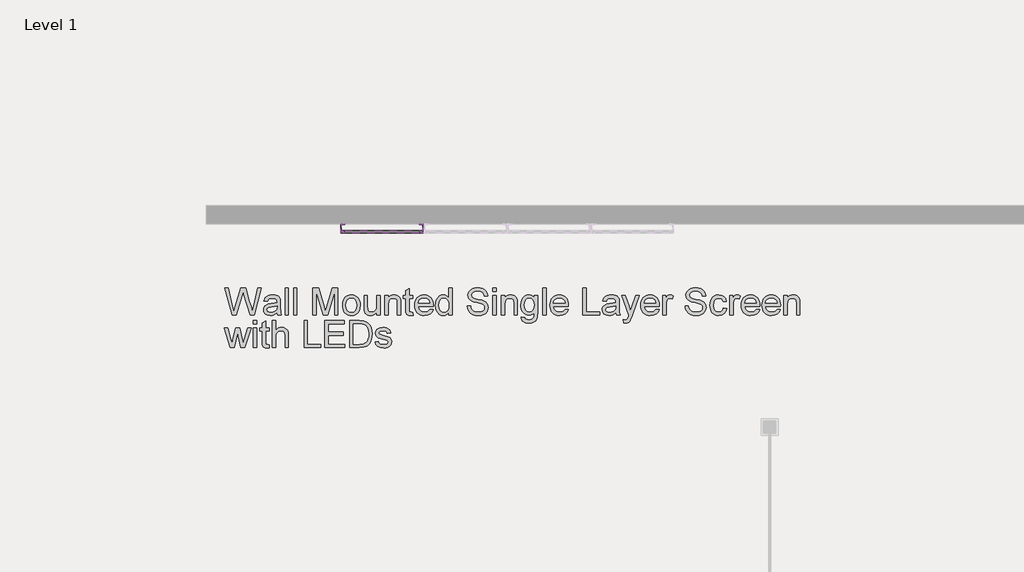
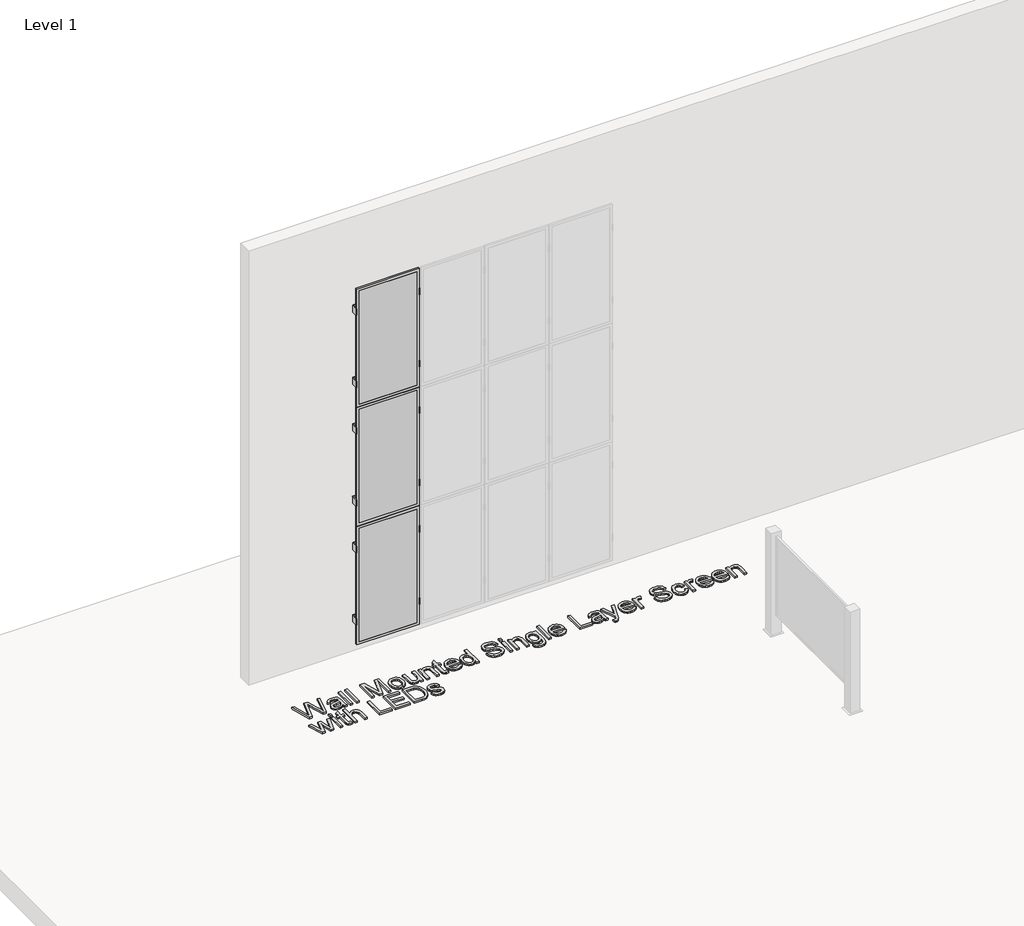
# One storey, part 2 of 4: 4 proxies.
"""IFC4 building model written with IfcOpenShell, lengths in millimetres."""

from ifc_helpers import new_model, si_unit, origin, origin_with_axes, place, context, project, spatial, polyline, outline, extrude, transform, mapped, element, save
from components import wall_mount_single_layer_3x6_w_led_26e74e4a

model = new_model("IFC4")

# Units and contexts
model_context = context("Model", 3, world=origin())
ifc_project = project(units=[si_unit("LENGTHUNIT", "METRE", prefix="MILLI")], contexts=[model_context])

# Site, building, storey
site = spatial("IfcSite", under=ifc_project)
building = spatial("IfcBuilding", under=site)
storey = spatial("IfcBuildingStorey", under=building, Name="Level 1", Elevation=0.0)

# Proxies
placement = place(None, origin())
element("IfcBuildingElementProxy", 1, Name="12\" Arial", ObjectType="12\" Arial", at=placement, inside=storey, context=model_context, shape_type="SweptSolid", body=[
    extrude(outline(polyline([(-15228.6804069, -5129.4015724), (-15311.7374001, -4824.8344783), (-15272.4767982, -4824.8344783), (-15224.2933321, -5025.0040626), (-15209.421892, -5086.7948964), (-15193.509451, -5032.1423538), (-15133.1314041, -4824.8344783), (-15076.5455743, -4824.8344783), (-15032.6748259, -4975.1103809), (-15013.8810434, -5030.8782814), (-15000.0320148, -5086.7948964), (-14985.6067179, -5026.7886354), (-14936.9771086, -4824.8344783), (-14897.7165066, -4824.8344783), (-14980.847857, -5129.4015724), (-15021.5212458, -5129.4015724), (-15094.5400169, -4894.4328181), (-15104.7269534, -4861.6412926), (-15116.1779623, -4901.1249662), (-15182.7276569, -5129.4015724), (-15228.6804069, -5129.4015724)])), origin_with_axes(), (0.0, 0.0, 1.0), 25.4),
    extrude(outline(polyline([(-14721.6386554, -5100.8484073), (-14739.8282856, -5116.4448301), (-14758.5570055, -5126.6503559), (-14778.2523691, -5132.2829139), (-14799.3419301, -5134.1604332), (-14831.1575174, -5129.6432333), (-14854.6265088, -5116.0916334), (-14869.098279, -5095.5132781), (-14873.9222024, -5069.9158118), (-14872.100451, -5054.1334959), (-14866.6351967, -5039.8011455), (-14858.2049491, -5027.5322074), (-14847.4882176, -5017.9401285), (-14820.8311611, -5005.4481188), (-14787.8909212, -4999.7226143), (-14748.9649266, -4993.6996811), (-14721.861727, -4986.635747), (-14721.6386554, -4978.1590261), (-14724.2597467, -4961.1684058), (-14732.1230207, -4950.0520043), (-14749.7084986, -4941.798355), (-14774.2091963, -4939.0471386), (-14796.8881425, -4940.8781846), (-14812.7262262, -4946.3713228), (-14823.5266096, -4956.5303754), (-14831.0924548, -4972.3591645), (-14869.1633416, -4967.6003036), (-14862.5548454, -4946.7802874), (-14852.6932216, -4930.4217033), (-14838.6583, -4917.9111043), (-14819.5299101, -4908.6350435), (-14796.1352758, -4902.8909497), (-14769.301621, -4900.9762518), (-14743.5647349, -4902.6678781), (-14723.162978, -4907.7427571), (-14707.7803321, -4915.3736648), (-14697.1007791, -4924.7333774), (-14690.0182558, -4936.3052168), (-14685.4266986, -4950.5725047), (-14683.5677686, -4983.8845306), (-14683.5677686, -5031.2500674), (-14681.6344814, -5097.3907975), (-14674.0500469, -5129.4015724), (-14712.1209337, -5129.4015724), (-14718.2182241, -5116.1659906), (-14721.6386554, -5100.8484073)]), holes=[polyline([(-14721.6386554, -5024.7066338), (-14783.0577032, -5036.3807143), (-14815.8120501, -5042.5523619), (-14830.6463116, -5052.590584), (-14835.8513157, -5067.2389526), (-14833.0164474, -5078.5598364), (-14824.5118425, -5087.8358972), (-14810.5233942, -5094.0261341), (-14791.2369952, -5096.0895464), (-14770.788765, -5093.8123572), (-14752.7199653, -5086.9807894), (-14738.0715967, -5076.9146833), (-14727.8846602, -5064.9338793), (-14723.3674603, -5052.590584), (-14721.861727, -5035.4884279), (-14721.6386554, -5024.7066338)])]), origin_with_axes(), (0.0, 0.0, 1.0), 25.4),
    extrude(outline(polyline([(-14631.2202993, -5129.4015724), (-14631.2202993, -4824.8344783), (-14593.1494126, -4824.8344783), (-14593.1494126, -5129.4015724), (-14631.2202993, -5129.4015724)])), origin_with_axes(), (0.0, 0.0, 1.0), 25.4),
    extrude(outline(polyline([(-14536.0430824, -5129.4015724), (-14536.0430824, -4824.8344783), (-14497.9721957, -4824.8344783), (-14497.9721957, -5129.4015724), (-14536.0430824, -5129.4015724)])), origin_with_axes(), (0.0, 0.0, 1.0), 25.4),
    extrude(outline(polyline([(-14317.1354836, -5129.4015724), (-14317.1354836, -4824.8344783), (-14251.6267897, -4824.8344783), (-14189.3154556, -5039.5037167), (-14176.7490886, -5084.3411087), (-14163.1417209, -5035.7858567), (-14101.8713875, -4824.8344783), (-14036.3626937, -4824.8344783), (-14036.3626937, -5129.4015724), (-14074.4335805, -5129.4015724), (-14074.4335805, -4862.905365), (-14150.94714, -5129.4015724), (-14202.5510373, -5129.4015724), (-14279.0645968, -4862.905365), (-14279.0645968, -5129.4015724), (-14317.1354836, -5129.4015724)])), origin_with_axes(), (0.0, 0.0, 1.0), 25.4),
    extrude(outline(polyline([(-13984.0152244, -5017.5683425), (-13981.9564594, -4988.6015655), (-13975.7801645, -4963.6407827), (-13965.4863395, -4942.6859941), (-13951.0749845, -4925.7371996), (-13936.5660357, -4914.904285), (-13920.5513536, -4907.1664888), (-13903.0309382, -4902.523811), (-13884.0047895, -4900.9762518), (-13863.001204, -4902.8607421), (-13844.0099102, -4908.514213), (-13827.0309081, -4917.9366646), (-13812.0641978, -4931.1280967), (-13799.8487039, -4947.6423662), (-13791.1233512, -4967.03333), (-13785.8881395, -4989.3009879), (-13784.1430689, -5014.4453401), (-13787.2288928, -5052.9066021), (-13796.4863643, -5082.1847499), (-13811.6459386, -5104.1108295), (-13832.4380708, -5120.5158869), (-13857.1339561, -5130.7492966), (-13884.0047895, -5134.1604332), (-13905.3150985, -5132.2829139), (-13924.4829906, -5126.6503559), (-13941.5084659, -5117.2627593), (-13956.3915244, -5104.1201241), (-13968.4768931, -5087.4455219), (-13977.1092994, -5067.4620242), (-13982.2887432, -5044.1696311), (-13984.0152244, -5017.5683425)]), holes=[polyline([(-13945.9443377, -5017.4939853), (-13941.5386735, -5051.9492532), (-13928.3216811, -5076.4964241), (-13908.4311299, -5091.1912658), (-13884.0047895, -5096.0895464), (-13859.6899849, -5091.1633819), (-13839.8366123, -5076.3848883), (-13826.6196198, -5051.5124046), (-13822.2139557, -5016.3042701), (-13826.6475038, -4982.8528244), (-13839.9481481, -4958.6402609), (-13859.8294046, -4943.9454192), (-13884.0047895, -4939.0471386), (-13908.4311299, -4943.9268299), (-13928.3216811, -4958.5659037), (-13941.5386735, -4983.0573067), (-13945.9443377, -5017.4939853)])]), origin_with_axes(), (0.0, 0.0, 1.0), 25.4),
    extrude(outline(polyline([(-13598.547496, -5129.4015724), (-13598.547496, -5090.9588996), (-13612.3221674, -5109.8595705), (-13628.3647335, -5123.3600498), (-13646.6751942, -5131.4603374), (-13667.2535494, -5134.1604332), (-13685.7963764, -5132.2643246), (-13703.0565416, -5126.5759987), (-13717.5376064, -5118.0249206), (-13727.7431322, -5107.5405553), (-13734.6118786, -5094.8068847), (-13739.0826053, -5079.5078907), (-13741.3133213, -5044.1138632), (-13741.3133213, -4905.7351126), (-13703.2424346, -4905.7351126), (-13703.2424346, -5026.1937778), (-13700.9373614, -5065.0082365), (-13695.3884553, -5077.9556841), (-13685.8800282, -5087.7987186), (-13673.0441164, -5094.0168395), (-13657.5127562, -5096.0895464), (-13641.0891094, -5093.9703662), (-13625.7250529, -5087.6128256), (-13613.0564448, -5077.6024874), (-13604.7191437, -5064.5249147), (-13600.0904079, -5046.614124), (-13598.547496, -5022.1041317), (-13598.547496, -4905.7351126), (-13560.4766092, -4905.7351126), (-13560.4766092, -5129.4015724), (-13598.547496, -5129.4015724)])), origin_with_axes(), (0.0, 0.0, 1.0), 25.4),
    extrude(outline(polyline([(-13508.1291399, -5129.4015724), (-13508.1291399, -4905.7351126), (-13470.0582532, -4905.7351126), (-13470.0582532, -4936.9651369), (-13456.8319661, -4921.2199997), (-13440.9474091, -4909.9734731), (-13422.4045822, -4903.2255571), (-13401.2034853, -4900.9762518), (-13382.4375868, -4902.7887086), (-13365.2517788, -4908.2260789), (-13350.9194284, -4916.6098533), (-13340.7139026, -4927.2615223), (-13329.3000723, -4955.2570083), (-13327.2924278, -4992.0638227), (-13327.2924278, -5129.4015724), (-13365.3633146, -5129.4015724), (-13365.3633146, -4997.1944695), (-13369.7503894, -4963.5106576), (-13375.819796, -4953.4817301), (-13385.2538658, -4945.702108), (-13397.3462056, -4940.7108809), (-13411.3904218, -4939.0471386), (-13433.6882874, -4942.7835879), (-13452.6958468, -4953.9929359), (-13460.2918996, -4963.1435189), (-13465.7176516, -4975.6494706), (-13470.0582532, -5010.72748), (-13470.0582532, -5129.4015724), (-13508.1291399, -5129.4015724)])), origin_with_axes(), (0.0, 0.0, 1.0), 25.4),
    extrude(outline(polyline([(-13194.0443242, -5097.6510477), (-13189.2854633, -5130.5169304), (-13217.7642712, -5134.1604332), (-13236.0375533, -5132.5803427), (-13249.6635103, -5127.8400711), (-13259.2927678, -5120.5344762), (-13265.5759513, -5111.2584154), (-13269.0335611, -5095.3273851), (-13270.1860977, -5068.0568818), (-13270.1860977, -4943.8059994), (-13298.7392628, -4943.8059994), (-13298.7392628, -4905.7351126), (-13270.1860977, -4905.7351126), (-13270.1860977, -4851.3799989), (-13232.1152109, -4828.9984815), (-13232.1152109, -4905.7351126), (-13194.0443242, -4905.7351126), (-13194.0443242, -4943.8059994), (-13232.1152109, -4943.8059994), (-13232.1152109, -5066.9415238), (-13230.1075665, -5086.5718248), (-13223.6013115, -5093.524223), (-13210.6259799, -5096.0895464), (-13194.0443242, -5097.6510477)])), origin_with_axes(), (0.0, 0.0, 1.0), 25.4),
    extrude(outline(polyline([(-12999.3771728, -5062.7775205), (-12962.049858, -5067.5363814), (-12975.4992167, -5095.6619925), (-12996.9605637, -5116.686491), (-13025.9505774, -5129.7919477), (-13061.9859357, -5134.1604332), (-13085.6082889, -5132.2759429), (-13106.6560241, -5126.622472), (-13125.1291411, -5117.2000205), (-13141.0276401, -5104.0085883), (-13153.8124313, -5087.4153142), (-13162.944425, -5067.7873369), (-13168.4236212, -5045.1246563), (-13170.25002, -5019.4272725), (-13168.4050319, -4992.8585152), (-13162.8700678, -4969.4406443), (-13153.6451276, -4949.1736598), (-13140.7302113, -4932.0575617), (-13124.8735382, -4918.4594886), (-13106.8233278, -4908.7465793), (-13086.5795799, -4902.9188337), (-13064.1422946, -4900.9762518), (-13042.4276683, -4902.9141863), (-13022.7903963, -4908.72799), (-13005.2304786, -4918.4176627), (-12989.7479153, -4931.9832045), (-12977.1095148, -4949.062124), (-12968.0820859, -4969.2919299), (-12962.6656286, -4992.6726222), (-12960.8601428, -5019.2042009), (-12961.0832144, -5029.4654946), (-13132.1791332, -5029.4654946), (-13125.5892263, -5057.9628918), (-13110.2809376, -5078.9130331), (-13088.1875543, -5091.7954181), (-13061.2423637, -5096.0895464), (-13040.9800265, -5094.1004913), (-13023.915049, -5088.133326), (-13010.0474311, -5077.8162644), (-12999.3771728, -5062.7775205)]), holes=[polyline([(-13132.1791332, -4991.3946079), (-12998.9310296, -4991.3946079), (-13004.0802657, -4971.2809851), (-13014.1742557, -4956.8928667), (-13036.3698801, -4943.5085706), (-13064.291009, -4939.0471386), (-13089.9535379, -4942.6069895), (-13111.173224, -4953.2865425), (-13125.9238337, -4969.9332608), (-13132.1791332, -4991.3946079)])]), origin_with_axes(), (0.0, 0.0, 1.0), 25.4),
    extrude(outline(polyline([(-12784.7822915, -5129.4015724), (-12784.7822915, -5093.4870444), (-12796.1728852, -5111.281652), (-12809.9707933, -5123.992086), (-12826.1760157, -5131.6183464), (-12844.7885525, -5134.1604332), (-12869.4007859, -5130.4797518), (-12891.9310177, -5119.4377075), (-12911.0036397, -5101.8057562), (-12925.2430437, -5078.3553541), (-12934.1101398, -5050.0345553), (-12937.0658386, -5017.7914141), (-12934.3425061, -4985.9479429), (-12926.1725087, -4957.1902955), (-12912.5651409, -4933.1543304), (-12893.5296976, -4915.4759059), (-12870.5068493, -4904.6011653), (-12844.9372669, -4900.9762518), (-12826.3107881, -4903.5694592), (-12809.8406682, -4911.3490813), (-12795.8801037, -4923.2741174), (-12784.7822915, -4938.3035666), (-12784.7822915, -4824.8344783), (-12746.7114048, -4824.8344783), (-12746.7114048, -5129.4015724), (-12784.7822915, -5129.4015724)]), holes=[polyline([(-12898.9949518, -5017.6426997), (-12894.7008235, -5052.0793783), (-12881.8184384, -5076.5707813), (-12863.0990132, -5091.2098551), (-12841.2937641, -5096.0895464), (-12819.4978096, -5091.4329267), (-12801.2524115, -5077.4630677), (-12788.8998215, -5053.919719), (-12784.7822915, -5020.5426305), (-12788.9741787, -4984.0518343), (-12801.5498403, -4958.7517967), (-12820.2599709, -4943.9733031), (-12842.8552653, -4939.0471386), (-12864.883586, -4943.7781155), (-12882.9337965, -4957.9710461), (-12894.979663, -4982.3509133), (-12898.9949518, -5017.6426997)])]), origin_with_axes(), (0.0, 0.0, 1.0), 25.4),
    extrude(outline(polyline([(-12580.1512752, -5024.7066338), (-12542.0803884, -5024.7066338), (-12537.7119029, -5045.8333734), (-12529.8114503, -5062.8146991), (-12517.4867443, -5076.2919418), (-12499.8454985, -5086.9064322), (-12478.2819102, -5093.7937679), (-12454.1901772, -5096.0895464), (-12432.9797857, -5094.3514469), (-12414.4090748, -5089.1371482), (-12399.3610364, -5080.8834989), (-12388.718662, -5070.0273476), (-12382.3890053, -5057.5632218), (-12380.2791197, -5044.4856492), (-12381.8592102, -5031.7426839), (-12386.5994818, -5020.7285235), (-12396.2287393, -5011.3316323), (-12412.4757876, -5003.4404744), (-12467.9090807, -4988.9036416), (-12504.2976358, -4979.2836788), (-12527.5807343, -4970.1284485), (-12546.5325258, -4957.3204206), (-12559.9632952, -4941.798355), (-12567.9659889, -4923.8968589), (-12570.6335535, -4903.9505398), (-12567.3339527, -4881.6526743), (-12557.4351504, -4860.860542), (-12541.1973967, -4843.2378855), (-12518.8809418, -4830.4484469), (-12492.0937603, -4822.6688248), (-12462.4438265, -4820.0756174), (-12430.3215158, -4822.7896553), (-12402.2144939, -4830.9317687), (-12379.1265831, -4844.3346542), (-12362.0616056, -4862.8310078), (-12351.2612222, -4885.2682932), (-12346.9670938, -4910.4939735), (-12385.0379806, -4910.4939735), (-12392.0275574, -4887.7778487), (-12406.6015688, -4871.3820859), (-12429.3734615, -4861.4553996), (-12460.9566825, -4858.1465042), (-12493.2834755, -4861.418221), (-12515.4605106, -4871.2333715), (-12528.2871277, -4885.6772578), (-12532.5626668, -4902.8351818), (-12529.5326108, -4917.4649611), (-12520.442443, -4929.2319881), (-12498.953212, -4939.753532), (-12458.2798233, -4950.4981475), (-12416.3051835, -4960.7036733), (-12390.9121994, -4969.6079481), (-12369.2091915, -4983.4197981), (-12354.0682065, -5000.4661863), (-12345.1732263, -5020.5612198), (-12342.208233, -5043.5190055), (-12345.6193695, -5066.987997), (-12355.8527793, -5089.062791), (-12372.490203, -5108.0610558), (-12395.1133813, -5122.3004597), (-12422.3188221, -5131.1954398), (-12452.7030332, -5134.1604332), (-12490.002464, -5130.9630736), (-12520.7026932, -5121.3709947), (-12545.1569176, -5105.3470179), (-12563.7183339, -5082.8539647), (-12575.6340753, -5055.4533363), (-12580.1512752, -5024.7066338)])), origin_with_axes(), (0.0, 0.0, 1.0), 25.4),
    extrude(outline(polyline([(-12289.8607637, -5129.4015724), (-12289.8607637, -4905.7351126), (-12251.7898769, -4905.7351126), (-12251.7898769, -5129.4015724), (-12289.8607637, -5129.4015724)])), origin_with_axes(), (0.0, 0.0, 1.0), 25.4),
    extrude(outline(polyline([(-12289.8607637, -4862.905365), (-12289.8607637, -4824.8344783), (-12251.7898769, -4824.8344783), (-12251.7898769, -4862.905365), (-12289.8607637, -4862.905365)])), origin_with_axes(), (0.0, 0.0, 1.0), 25.4),
    extrude(outline(polyline([(-12194.6835468, -5129.4015724), (-12194.6835468, -4905.7351126), (-12156.61266, -4905.7351126), (-12156.61266, -4936.9651369), (-12143.3863729, -4921.2199997), (-12127.5018159, -4909.9734731), (-12108.958989, -4903.2255571), (-12087.7578922, -4900.9762518), (-12068.9919936, -4902.7887086), (-12051.8061856, -4908.2260789), (-12037.4738352, -4916.6098533), (-12027.2683094, -4927.2615223), (-12015.8544791, -4955.2570083), (-12013.8468347, -4992.0638227), (-12013.8468347, -5129.4015724), (-12051.9177214, -5129.4015724), (-12051.9177214, -4997.1944695), (-12056.3047963, -4963.5106576), (-12062.3742028, -4953.4817301), (-12071.8082726, -4945.702108), (-12083.9006124, -4940.7108809), (-12097.9448287, -4939.0471386), (-12120.2426942, -4942.7835879), (-12139.2502537, -4953.9929359), (-12146.8463064, -4963.1435189), (-12152.2720584, -4975.6494706), (-12156.61266, -5010.72748), (-12156.61266, -5129.4015724), (-12194.6835468, -5129.4015724)])), origin_with_axes(), (0.0, 0.0, 1.0), 25.4),
    extrude(outline(polyline([(-11971.0170871, -5148.4370157), (-11932.9462003, -5153.1958766), (-11928.7450185, -5165.0930287), (-11920.602905, -5173.2723208), (-11904.5975175, -5179.6298614), (-11883.6473762, -5181.7490416), (-11861.3030374, -5179.3510219), (-11844.6842031, -5172.1569628), (-11833.158837, -5160.6315966), (-11826.0949029, -5145.2396561), (-11823.4924009, -5100.8484073), (-11836.161009, -5113.340417), (-11850.2981717, -5122.2632811), (-11865.9038892, -5127.6169995), (-11882.9781614, -5129.4015724), (-11903.8516219, -5127.3242181), (-11922.2294688, -5121.0921552), (-11938.1117021, -5110.7053837), (-11951.4983219, -5096.1639036), (-11962.1197833, -5078.7178454), (-11969.7065414, -5059.6173395), (-11974.2585963, -5038.8623859), (-11975.7759479, -5016.4529845), (-11973.0526154, -4985.7155767), (-11964.882618, -4957.4505457), (-11951.5540898, -4933.4982325), (-11933.3551649, -4915.6989775), (-11910.908585, -4904.6569332), (-11884.8370915, -4900.9762518), (-11867.0331892, -4903.0582534), (-11850.87444, -4909.3042583), (-11836.3608439, -4919.7142664), (-11823.4924009, -4934.2882777), (-11823.4924009, -4905.7351126), (-11785.4215141, -4905.7351126), (-11785.4215141, -5098.8407629), (-11788.0240161, -5143.4271993), (-11795.8315222, -5172.788999), (-11809.2808809, -5192.2612909), (-11828.8089407, -5207.1792043), (-11853.9881478, -5216.6597474), (-11884.3909483, -5219.8199284), (-11919.8128597, -5215.367791), (-11947.7061047, -5202.0113788), (-11958.2113829, -5191.9847751), (-11965.5983061, -5179.7135133), (-11969.8668741, -5165.1975935), (-11971.0170871, -5148.4370157)]), holes=[polyline([(-11937.7050612, -5013.8504825), (-11933.6432991, -5048.7704828), (-11921.4580128, -5072.778564), (-11903.1382575, -5086.6926552), (-11880.6730882, -5091.3306856), (-11858.3752227, -5086.7205392), (-11839.9625208, -5072.8900998), (-11827.6099309, -5049.1887421), (-11823.4924009, -5014.9658405), (-11827.7307613, -4981.960538), (-11840.4458426, -4958.1941177), (-11859.1280893, -4943.8338834), (-11881.2679458, -4939.0471386), (-11903.0081324, -4943.7595262), (-11921.2349412, -4957.8966889), (-11933.5875312, -4981.3099125), (-11937.7050612, -5013.8504825)])]), origin_with_axes(), (0.0, 0.0, 1.0), 25.4),
    extrude(outline(polyline([(-11728.315184, -5129.4015724), (-11728.315184, -4824.8344783), (-11690.2442972, -4824.8344783), (-11690.2442972, -5129.4015724), (-11728.315184, -5129.4015724)])), origin_with_axes(), (0.0, 0.0, 1.0), 25.4),
    extrude(outline(polyline([(-11476.5417024, -5062.7775205), (-11439.2143877, -5067.5363814), (-11452.6637463, -5095.6619925), (-11474.1250934, -5116.686491), (-11503.115107, -5129.7919477), (-11539.1504654, -5134.1604332), (-11562.7728186, -5132.2759429), (-11583.8205537, -5126.622472), (-11602.2936708, -5117.2000205), (-11618.1921697, -5104.0085883), (-11630.9769609, -5087.4153142), (-11640.1089547, -5067.7873369), (-11645.5881509, -5045.1246563), (-11647.4145496, -5019.4272725), (-11645.5695616, -4992.8585152), (-11640.0345975, -4969.4406443), (-11630.8096572, -4949.1736598), (-11617.8947409, -4932.0575617), (-11602.0380679, -4918.4594886), (-11583.9878574, -4908.7465793), (-11563.7441095, -4902.9188337), (-11541.3068242, -4900.9762518), (-11519.592198, -4902.9141863), (-11499.954926, -4908.72799), (-11482.3950083, -4918.4176627), (-11466.9124449, -4931.9832045), (-11454.2740445, -4949.062124), (-11445.2466156, -4969.2919299), (-11439.8301582, -4992.6726222), (-11438.0246725, -5019.2042009), (-11438.2477441, -5029.4654946), (-11609.3436629, -5029.4654946), (-11602.753756, -5057.9628918), (-11587.4454673, -5078.9130331), (-11565.352084, -5091.7954181), (-11538.4068934, -5096.0895464), (-11518.1445562, -5094.1004913), (-11501.0795786, -5088.133326), (-11487.2119607, -5077.8162644), (-11476.5417024, -5062.7775205)]), holes=[polyline([(-11609.3436629, -4991.3946079), (-11476.0955592, -4991.3946079), (-11481.2447954, -4971.2809851), (-11491.3387854, -4956.8928667), (-11513.5344098, -4943.5085706), (-11541.4555386, -4939.0471386), (-11567.1180675, -4942.6069895), (-11588.3377537, -4953.2865425), (-11603.0883634, -4969.9332608), (-11609.3436629, -4991.3946079)])]), origin_with_axes(), (0.0, 0.0, 1.0), 25.4),
    extrude(outline(polyline([(-11276.2234037, -5129.4015724), (-11276.2234037, -4824.8344783), (-11238.152517, -4824.8344783), (-11238.152517, -5091.3306856), (-11085.8689699, -5091.3306856), (-11085.8689699, -5129.4015724), (-11276.2234037, -5129.4015724)])), origin_with_axes(), (0.0, 0.0, 1.0), 25.4),
    extrude(outline(polyline([(-10905.0322578, -5100.8484073), (-10923.2218881, -5116.4448301), (-10941.950608, -5126.6503559), (-10961.6459715, -5132.2829139), (-10982.7355326, -5134.1604332), (-11014.5511198, -5129.6432333), (-11038.0201113, -5116.0916334), (-11052.4918815, -5095.5132781), (-11057.3158049, -5069.9158118), (-11055.4940534, -5054.1334959), (-11050.0287992, -5039.8011455), (-11041.5985516, -5027.5322074), (-11030.88182, -5017.9401285), (-11004.2247636, -5005.4481188), (-10971.2845237, -4999.7226143), (-10932.3585291, -4993.6996811), (-10905.2553294, -4986.635747), (-10905.0322578, -4978.1590261), (-10907.6533492, -4961.1684058), (-10915.5166231, -4950.0520043), (-10933.1021011, -4941.798355), (-10957.6027987, -4939.0471386), (-10980.2817449, -4940.8781846), (-10996.1198287, -4946.3713228), (-11006.9202121, -4956.5303754), (-11014.4860573, -4972.3591645), (-11052.556944, -4967.6003036), (-11045.9484478, -4946.7802874), (-11036.0868241, -4930.4217033), (-11022.0519024, -4917.9111043), (-11002.9235126, -4908.6350435), (-10979.5288783, -4902.8909497), (-10952.6952235, -4900.9762518), (-10926.9583374, -4902.6678781), (-10906.5565804, -4907.7427571), (-10891.1739346, -4915.3736648), (-10880.4943816, -4924.7333774), (-10873.4118582, -4936.3052168), (-10868.8203011, -4950.5725047), (-10866.9613711, -4983.8845306), (-10866.9613711, -5031.2500674), (-10865.0280839, -5097.3907975), (-10857.4436494, -5129.4015724), (-10895.5145361, -5129.4015724), (-10901.6118266, -5116.1659906), (-10905.0322578, -5100.8484073)]), holes=[polyline([(-10905.0322578, -5024.7066338), (-10966.4513056, -5036.3807143), (-10999.2056525, -5042.5523619), (-11014.0399141, -5052.590584), (-11019.2449181, -5067.2389526), (-11016.4100498, -5078.5598364), (-11007.905445, -5087.8358972), (-10993.9169966, -5094.0261341), (-10974.6305977, -5096.0895464), (-10954.1823675, -5093.8123572), (-10936.1135677, -5086.9807894), (-10921.4651992, -5076.9146833), (-10911.2782627, -5064.9338793), (-10906.7610627, -5052.590584), (-10905.2553294, -5035.4884279), (-10905.0322578, -5024.7066338)])]), origin_with_axes(), (0.0, 0.0, 1.0), 25.4),
    extrude(outline(polyline([(-10814.6139018, -5215.0610676), (-10819.3727626, -5178.4029676), (-10800.0398904, -5181.7490416), (-10781.9710907, -5177.5478598), (-10770.8918678, -5165.8366007), (-10760.4818597, -5137.803936), (-10757.5075716, -5128.5836431), (-10838.408206, -4905.7351126), (-10798.2553176, -4905.7351126), (-10755.3512128, -5029.9116378), (-10740.4054155, -5079.5822479), (-10725.4596181, -5035.7114995), (-10681.3657981, -4905.7351126), (-10641.5103385, -4905.7351126), (-10719.3623277, -5134.7552908), (-10739.5874863, -5184.4259009), (-10749.9417265, -5200.2825739), (-10761.6715749, -5211.2688503), (-10775.2975319, -5217.6821589), (-10791.340098, -5219.8199284), (-10814.6139018, -5215.0610676)])), origin_with_axes(), (0.0, 0.0, 1.0), 25.4),
    extrude(outline(polyline([(-10453.3866208, -5062.7775205), (-10416.059306, -5067.5363814), (-10429.5086647, -5095.6619925), (-10450.9700118, -5116.686491), (-10479.9600254, -5129.7919477), (-10515.9953838, -5134.1604332), (-10539.617737, -5132.2759429), (-10560.6654721, -5126.622472), (-10579.1385891, -5117.2000205), (-10595.0370881, -5104.0085883), (-10607.8218793, -5087.4153142), (-10616.953873, -5067.7873369), (-10622.4330692, -5045.1246563), (-10624.259468, -5019.4272725), (-10622.4144799, -4992.8585152), (-10616.8795158, -4969.4406443), (-10607.6545756, -4949.1736598), (-10594.7396593, -4932.0575617), (-10578.8829863, -4918.4594886), (-10560.8327758, -4908.7465793), (-10540.5890279, -4902.9188337), (-10518.1517426, -4900.9762518), (-10496.4371163, -4902.9141863), (-10476.7998443, -4908.72799), (-10459.2399267, -4918.4176627), (-10443.7573633, -4931.9832045), (-10431.1189628, -4949.062124), (-10422.0915339, -4969.2919299), (-10416.6750766, -4992.6726222), (-10414.8695908, -5019.2042009), (-10415.0926624, -5029.4654946), (-10586.1885812, -5029.4654946), (-10579.5986743, -5057.9628918), (-10564.2903856, -5078.9130331), (-10542.1970024, -5091.7954181), (-10515.2518118, -5096.0895464), (-10494.9894746, -5094.1004913), (-10477.924497, -5088.133326), (-10464.0568791, -5077.8162644), (-10453.3866208, -5062.7775205)]), holes=[polyline([(-10586.1885812, -4991.3946079), (-10452.9404776, -4991.3946079), (-10458.0897137, -4971.2809851), (-10468.1837037, -4956.8928667), (-10490.3793281, -4943.5085706), (-10518.300457, -4939.0471386), (-10543.9629859, -4942.6069895), (-10565.182672, -4953.2865425), (-10579.9332817, -4969.9332608), (-10586.1885812, -4991.3946079)])]), origin_with_axes(), (0.0, 0.0, 1.0), 25.4),
    extrude(outline(polyline([(-10376.7987041, -5129.4015724), (-10376.7987041, -4905.7351126), (-10343.4866781, -4905.7351126), (-10343.4866781, -4938.824067), (-10331.1805614, -4919.6399092), (-10319.8410883, -4908.3376147), (-10308.4644366, -4902.8165925), (-10296.0467841, -4900.9762518), (-10277.0856979, -4903.9133612), (-10257.8271829, -4912.7246895), (-10270.5422643, -4946.8546446), (-10283.9265604, -4940.9990151), (-10297.3108565, -4939.0471386), (-10308.6782136, -4940.9246579), (-10318.8372661, -4946.5572158), (-10327.0444421, -4955.5172585), (-10332.5561696, -4967.377232), (-10337.1849054, -4988.6433914), (-10338.7278173, -5011.842838), (-10338.7278173, -5129.4015724), (-10376.7987041, -5129.4015724)])), origin_with_axes(), (0.0, 0.0, 1.0), 25.4),
    extrude(outline(polyline([(-10124.5790793, -5024.7066338), (-10086.5081925, -5024.7066338), (-10082.139707, -5045.8333734), (-10074.2392544, -5062.8146991), (-10061.9145484, -5076.2919418), (-10044.2733025, -5086.9064322), (-10022.7097143, -5093.7937679), (-9998.6179813, -5096.0895464), (-9977.4075898, -5094.3514469), (-9958.8368789, -5089.1371482), (-9943.7888404, -5080.8834989), (-9933.1464661, -5070.0273476), (-9926.8168094, -5057.5632218), (-9924.7069238, -5044.4856492), (-9926.2870143, -5031.7426839), (-9931.0272859, -5020.7285235), (-9940.6565433, -5011.3316323), (-9956.9035917, -5003.4404744), (-10012.3368848, -4988.9036416), (-10048.7254399, -4979.2836788), (-10072.0085384, -4970.1284485), (-10090.9603299, -4957.3204206), (-10104.3910993, -4941.798355), (-10112.393793, -4923.8968589), (-10115.0613576, -4903.9505398), (-10111.7617568, -4881.6526743), (-10101.8629545, -4860.860542), (-10085.6252008, -4843.2378855), (-10063.3087459, -4830.4484469), (-10036.5215644, -4822.6688248), (-10006.8716306, -4820.0756174), (-9974.7493199, -4822.7896553), (-9946.642298, -4830.9317687), (-9923.5543872, -4844.3346542), (-9906.4894096, -4862.8310078), (-9895.6890262, -4885.2682932), (-9891.3948979, -4910.4939735), (-9929.4657846, -4910.4939735), (-9936.4553615, -4887.7778487), (-9951.0293728, -4871.3820859), (-9973.8012656, -4861.4553996), (-10005.3844866, -4858.1465042), (-10037.7112796, -4861.418221), (-10059.8883147, -4871.2333715), (-10072.7149318, -4885.6772578), (-10076.9904708, -4902.8351818), (-10073.9604149, -4917.4649611), (-10064.8702471, -4929.2319881), (-10043.3810161, -4939.753532), (-10002.7076273, -4950.4981475), (-9960.7329875, -4960.7036733), (-9935.3400035, -4969.6079481), (-9913.6369955, -4983.4197981), (-9898.4960106, -5000.4661863), (-9889.6010304, -5020.5612198), (-9886.636037, -5043.5190055), (-9890.0471736, -5066.987997), (-9900.2805834, -5089.062791), (-9916.918007, -5108.0610558), (-9939.5411853, -5122.3004597), (-9966.7466261, -5131.1954398), (-9997.1308373, -5134.1604332), (-10034.4302681, -5130.9630736), (-10065.1304973, -5121.3709947), (-10089.5847217, -5105.3470179), (-10108.1461379, -5082.8539647), (-10120.0618793, -5055.4533363), (-10124.5790793, -5024.7066338)])), origin_with_axes(), (0.0, 0.0, 1.0), 25.4),
    extrude(outline(polyline([(-9691.5227424, -5048.500938), (-9653.4518556, -5053.2597988), (-9664.066346, -5087.1202091), (-9684.0126651, -5112.7083808), (-9711.4132936, -5128.7974201), (-9744.3907121, -5134.1604332), (-9765.742847, -5132.2898849), (-9784.8875025, -5126.6782399), (-9801.8246787, -5117.3254982), (-9816.5543754, -5104.2316599), (-9828.4770878, -5087.6430332), (-9836.9933109, -5067.8059262), (-9842.1030448, -5044.7203391), (-9843.8062894, -5018.3862717), (-9840.897064, -4984.5072721), (-9832.1693875, -4955.1454725), (-9817.4838404, -4931.4348201), (-9796.7010028, -4914.5092623), (-9771.8378138, -4904.3595044), (-9744.9112125, -4900.9762518), (-9712.7424286, -4905.6235768), (-9687.0241318, -4919.565552), (-9668.5742513, -4942.0586052), (-9658.2107165, -4972.3591645), (-9696.2816032, -4977.1180253), (-9703.1875283, -4960.5084856), (-9713.9414384, -4948.6020389), (-9727.9484761, -4941.4358636), (-9744.6137837, -4939.0471386), (-9769.2167225, -4943.7502315), (-9788.7447823, -4957.8595103), (-9801.4877476, -4982.1371364), (-9805.7354027, -5017.3452709), (-9801.5806941, -5053.0274326), (-9789.1165683, -5077.3887105), (-9769.9417052, -5091.4143374), (-9745.6547845, -5096.0895464), (-9725.9408317, -5093.1710263), (-9709.7774352, -5084.4154659), (-9698.0197028, -5069.5997937), (-9691.5227424, -5048.500938)])), origin_with_axes(), (0.0, 0.0, 1.0), 25.4),
    extrude(outline(polyline([(-9620.1398297, -5129.4015724), (-9620.1398297, -4905.7351126), (-9586.8278038, -4905.7351126), (-9586.8278038, -4938.824067), (-9574.5216871, -4919.6399092), (-9563.182214, -4908.3376147), (-9551.8055623, -4902.8165925), (-9539.3879098, -4900.9762518), (-9520.4268236, -4903.9133612), (-9501.1683086, -4912.7246895), (-9513.8833899, -4946.8546446), (-9527.2676861, -4940.9990151), (-9540.6519822, -4939.0471386), (-9552.0193392, -4940.9246579), (-9562.1783918, -4946.5572158), (-9570.3855678, -4955.5172585), (-9575.8972953, -4967.377232), (-9580.5260311, -4988.6433914), (-9582.068943, -5011.842838), (-9582.068943, -5129.4015724), (-9620.1398297, -5129.4015724)])), origin_with_axes(), (0.0, 0.0, 1.0), 25.4),
    extrude(outline(polyline([(-9320.7777397, -5062.7775205), (-9283.450425, -5067.5363814), (-9296.8997836, -5095.6619925), (-9318.3611307, -5116.686491), (-9347.3511443, -5129.7919477), (-9383.3865027, -5134.1604332), (-9407.0088559, -5132.2759429), (-9428.056591, -5126.622472), (-9446.5297081, -5117.2000205), (-9462.428207, -5104.0085883), (-9475.2129982, -5087.4153142), (-9484.344992, -5067.7873369), (-9489.8241882, -5045.1246563), (-9491.6505869, -5019.4272725), (-9489.8055989, -4992.8585152), (-9484.2706348, -4969.4406443), (-9475.0456945, -4949.1736598), (-9462.1307782, -4932.0575617), (-9446.2741052, -4918.4594886), (-9428.2238947, -4908.7465793), (-9407.9801468, -4902.9188337), (-9385.5428615, -4900.9762518), (-9363.8282353, -4902.9141863), (-9344.1909633, -4908.72799), (-9326.6310456, -4918.4176627), (-9311.1484822, -4931.9832045), (-9298.5100818, -4949.062124), (-9289.4826529, -4969.2919299), (-9284.0661955, -4992.6726222), (-9282.2607097, -5019.2042009), (-9282.4837814, -5029.4654946), (-9453.5797002, -5029.4654946), (-9446.9897932, -5057.9628918), (-9431.6815046, -5078.9130331), (-9409.5881213, -5091.7954181), (-9382.6429307, -5096.0895464), (-9362.3805935, -5094.1004913), (-9345.3156159, -5088.133326), (-9331.447998, -5077.8162644), (-9320.7777397, -5062.7775205)]), holes=[polyline([(-9453.5797002, -4991.3946079), (-9320.3315965, -4991.3946079), (-9325.4808327, -4971.2809851), (-9335.5748227, -4956.8928667), (-9357.7704471, -4943.5085706), (-9385.6915759, -4939.0471386), (-9411.3541048, -4942.6069895), (-9432.573791, -4953.2865425), (-9447.3244007, -4969.9332608), (-9453.5797002, -4991.3946079)])]), origin_with_axes(), (0.0, 0.0, 1.0), 25.4),
    extrude(outline(polyline([(-9087.5935583, -5062.7775205), (-9050.2662436, -5067.5363814), (-9063.7156022, -5095.6619925), (-9085.1769493, -5116.686491), (-9114.1669629, -5129.7919477), (-9150.2023213, -5134.1604332), (-9173.8246745, -5132.2759429), (-9194.8724096, -5126.622472), (-9213.3455267, -5117.2000205), (-9229.2440256, -5104.0085883), (-9242.0288168, -5087.4153142), (-9251.1608106, -5067.7873369), (-9256.6400068, -5045.1246563), (-9258.4664055, -5019.4272725), (-9256.6214175, -4992.8585152), (-9251.0864534, -4969.4406443), (-9241.8615131, -4949.1736598), (-9228.9465968, -4932.0575617), (-9213.0899238, -4918.4594886), (-9195.0397133, -4908.7465793), (-9174.7959654, -4902.9188337), (-9152.3586801, -4900.9762518), (-9130.6440539, -4902.9141863), (-9111.0067819, -4908.72799), (-9093.4468642, -4918.4176627), (-9077.9643008, -4931.9832045), (-9065.3259004, -4949.062124), (-9056.2984715, -4969.2919299), (-9050.8820141, -4992.6726222), (-9049.0765284, -5019.2042009), (-9049.2996, -5029.4654946), (-9220.3955188, -5029.4654946), (-9213.8056119, -5057.9628918), (-9198.4973232, -5078.9130331), (-9176.4039399, -5091.7954181), (-9149.4587493, -5096.0895464), (-9129.1964121, -5094.1004913), (-9112.1314345, -5088.133326), (-9098.2638166, -5077.8162644), (-9087.5935583, -5062.7775205)]), holes=[polyline([(-9220.3955188, -4991.3946079), (-9087.1474151, -4991.3946079), (-9092.2966513, -4971.2809851), (-9102.3906413, -4956.8928667), (-9124.5862657, -4943.5085706), (-9152.5073945, -4939.0471386), (-9178.1699234, -4942.6069895), (-9199.3896096, -4953.2865425), (-9214.1402193, -4969.9332608), (-9220.3955188, -4991.3946079)])]), origin_with_axes(), (0.0, 0.0, 1.0), 25.4),
    extrude(outline(polyline([(-9011.0056416, -5129.4015724), (-9011.0056416, -4905.7351126), (-8972.9347548, -4905.7351126), (-8972.9347548, -4936.9651369), (-8959.7084678, -4921.2199997), (-8943.8239108, -4909.9734731), (-8925.2810838, -4903.2255571), (-8904.079987, -4900.9762518), (-8885.3140885, -4902.7887086), (-8868.1282804, -4908.2260789), (-8853.79593, -4916.6098533), (-8843.5904042, -4927.2615223), (-8832.1765739, -4955.2570083), (-8830.1689295, -4992.0638227), (-8830.1689295, -5129.4015724), (-8868.2398162, -5129.4015724), (-8868.2398162, -4997.1944695), (-8872.6268911, -4963.5106576), (-8878.6962976, -4953.4817301), (-8888.1303674, -4945.702108), (-8900.2227072, -4940.7108809), (-8914.2669235, -4939.0471386), (-8936.564789, -4942.7835879), (-8955.5723485, -4953.9929359), (-8963.1684013, -4963.1435189), (-8968.5941532, -4975.6494706), (-8972.9347548, -5010.72748), (-8972.9347548, -5129.4015724), (-9011.0056416, -5129.4015724)])), origin_with_axes(), (0.0, 0.0, 1.0), 25.4),
    extrude(outline(polyline([(-15250.8388528, -5495.4542367), (-15318.8756914, -5271.787777), (-15279.3176606, -5271.787777), (-15240.7262735, -5402.2846642), (-15229.2009074, -5448.9066291), (-15219.7575429, -5403.9948798), (-15189.048019, -5271.787777), (-15143.6901265, -5271.787777), (-15113.1293171, -5403.6230938), (-15104.7269534, -5444.2964826), (-15092.6810869, -5401.3923778), (-15054.0153425, -5271.787777), (-15014.3085973, -5271.787777), (-15082.8659364, -5495.4542367), (-15128.8930436, -5495.4542367), (-15158.1154235, -5364.2881347), (-15166.5921444, -5323.3916743), (-15204.2912451, -5495.4542367), (-15250.8388528, -5495.4542367)])), origin_with_axes(), (0.0, 0.0, 1.0), 25.4),
    extrude(outline(polyline([(-14988.1348627, -5495.4542367), (-14988.1348627, -5271.787777), (-14950.0639759, -5271.787777), (-14950.0639759, -5495.4542367), (-14988.1348627, -5495.4542367)])), origin_with_axes(), (0.0, 0.0, 1.0), 25.4),
    extrude(outline(polyline([(-14988.1348627, -5228.9580294), (-14988.1348627, -5190.8871426), (-14950.0639759, -5190.8871426), (-14950.0639759, -5228.9580294), (-14988.1348627, -5228.9580294)])), origin_with_axes(), (0.0, 0.0, 1.0), 25.4),
    extrude(outline(polyline([(-14812.0570114, -5463.703712), (-14807.2981506, -5496.5695947), (-14835.7769584, -5500.2130975), (-14854.0502405, -5498.633007), (-14867.6761976, -5493.8927355), (-14877.305455, -5486.5871405), (-14883.5886385, -5477.3110797), (-14887.0462483, -5461.3800495), (-14888.1987849, -5434.1095461), (-14888.1987849, -5309.8586637), (-14916.75195, -5309.8586637), (-14916.75195, -5271.787777), (-14888.1987849, -5271.787777), (-14888.1987849, -5217.4326633), (-14850.1278982, -5195.0511459), (-14850.1278982, -5271.787777), (-14812.0570114, -5271.787777), (-14812.0570114, -5309.8586637), (-14850.1278982, -5309.8586637), (-14850.1278982, -5432.9941881), (-14848.1202538, -5452.6244891), (-14841.6139987, -5459.5768874), (-14828.6386672, -5462.1422108), (-14812.0570114, -5463.703712)])), origin_with_axes(), (0.0, 0.0, 1.0), 25.4),
    extrude(outline(polyline([(-14773.9861247, -5495.4542367), (-14773.9861247, -5190.8871426), (-14735.9152379, -5190.8871426), (-14735.9152379, -5302.8690869), (-14721.9314369, -5287.1890122), (-14706.2281255, -5275.9889588), (-14688.8053039, -5269.2689268), (-14669.6629721, -5267.0289161), (-14646.6680078, -5269.4734091), (-14626.9075817, -5276.806888), (-14611.3483374, -5288.4530846), (-14600.9569186, -5303.8357305), (-14595.1012891, -5324.9717648), (-14593.1494126, -5353.8781266), (-14593.1494126, -5495.4542367), (-14631.2202993, -5495.4542367), (-14631.2202993, -5357.8190582), (-14634.2503553, -5333.9875754), (-14643.340523, -5317.6661698), (-14657.9888916, -5308.2413946), (-14677.6935498, -5305.0998029), (-14693.7825891, -5307.2189831), (-14708.8863955, -5313.5765238), (-14721.3969945, -5323.558978), (-14729.7064117, -5336.5528988), (-14734.3630313, -5353.8223587), (-14735.9152379, -5376.63143), (-14735.9152379, -5495.4542367), (-14773.9861247, -5495.4542367)])), origin_with_axes(), (0.0, 0.0, 1.0), 25.4),
    extrude(outline(polyline([(-14417.0715613, -5495.4542367), (-14417.0715613, -5190.8871426), (-14379.0006745, -5190.8871426), (-14379.0006745, -5457.3833499), (-14226.7171275, -5457.3833499), (-14226.7171275, -5495.4542367), (-14417.0715613, -5495.4542367)])), origin_with_axes(), (0.0, 0.0, 1.0), 25.4),
    extrude(outline(polyline([(-14183.8873799, -5495.4542367), (-14183.8873799, -5190.8871426), (-13964.979781, -5190.8871426), (-13964.979781, -5228.9580294), (-14145.8164932, -5228.9580294), (-14145.8164932, -5319.3763854), (-13974.4975027, -5319.3763854), (-13974.4975027, -5357.4472722), (-14145.8164932, -5357.4472722), (-14145.8164932, -5457.3833499), (-13960.2209202, -5457.3833499), (-13960.2209202, -5495.4542367), (-14183.8873799, -5495.4542367)])), origin_with_axes(), (0.0, 0.0, 1.0), 25.4),
    extrude(outline(polyline([(-13903.1145901, -5495.4542367), (-13903.1145901, -5190.8871426), (-13798.0478655, -5190.8871426), (-13743.6927518, -5195.2742175), (-13719.4151257, -5203.732349), (-13698.9297169, -5217.0608773), (-13677.8680398, -5240.2603239), (-13662.8664746, -5269.1109178), (-13653.8878426, -5303.0549799), (-13650.8949653, -5341.5348312), (-13652.921199, -5374.2241156), (-13658.9999002, -5402.9910576), (-13668.2573717, -5427.4824606), (-13679.8199164, -5447.3451278), (-13693.1298553, -5463.0252025), (-13707.6295094, -5474.9688279), (-13724.2762277, -5483.8266294), (-13744.0273592, -5490.2492326), (-13792.9915758, -5495.4542367), (-13903.1145901, -5495.4542367)]), holes=[polyline([(-13865.0437033, -5457.3833499), (-13797.6760795, -5457.3833499), (-13769.8107185, -5456.0077417), (-13748.6746842, -5451.8809171), (-13732.7250647, -5445.2445369), (-13720.4189479, -5436.3402621), (-13707.1926609, -5419.8608475), (-13697.2566799, -5398.5296256), (-13691.038559, -5372.2536498), (-13688.965852, -5340.9399736), (-13693.0276141, -5299.4486556), (-13705.2129004, -5268.813489), (-13723.2166376, -5247.7704012), (-13744.7337526, -5235.0553198), (-13766.6319482, -5230.482352), (-13798.7170803, -5228.9580294), (-13865.0437033, -5228.9580294), (-13865.0437033, -5457.3833499)])]), origin_with_axes(), (0.0, 0.0, 1.0), 25.4),
    extrude(outline(polyline([(-13617.5829394, -5428.8301849), (-13579.5120526, -5424.071324), (-13573.5077087, -5440.355551), (-13561.8893961, -5452.3270603), (-13544.5827576, -5459.6884232), (-13521.5134361, -5462.1422108), (-13498.7229541, -5459.8929055), (-13482.6989773, -5453.1449895), (-13473.2184342, -5443.3670176), (-13470.0582532, -5432.0275445), (-13473.2370235, -5422.3239298), (-13482.7733345, -5414.9253883), (-13521.9595793, -5404.069237), (-13579.288981, -5385.4427583), (-13593.7979298, -5376.0830456), (-13604.3101791, -5363.6932771), (-13610.6956037, -5349.0634978), (-13612.8240785, -5332.9837532), (-13611.1138629, -5318.2331435), (-13605.9832161, -5304.6164811), (-13597.8968705, -5292.6728557), (-13587.3195587, -5282.9413571), (-13563.1162899, -5271.6762412), (-13530.361943, -5267.0289161), (-13505.5824058, -5268.8971408), (-13484.0374069, -5274.5018148), (-13466.7121792, -5283.2945538), (-13454.5919554, -5294.7269734), (-13446.5613778, -5309.6448868), (-13441.5050881, -5328.8941071), (-13479.5759749, -5333.652968), (-13484.381309, -5321.672164), (-13493.889736, -5312.6470588), (-13508.1942025, -5306.9866169), (-13527.3876549, -5305.0998029), (-13549.2486719, -5306.902965), (-13563.8226833, -5312.3124514), (-13572.0205646, -5320.1199574), (-13574.7531918, -5329.1171787), (-13570.2174025, -5340.1964016), (-13556.0151772, -5348.5987653), (-13523.2236517, -5356.7037002), (-13467.3442154, -5374.6237856), (-13452.584311, -5383.1934529), (-13441.3935523, -5394.9233013), (-13434.3389129, -5409.8505094), (-13431.9873664, -5428.0122557), (-13434.7478775, -5446.7874488), (-13443.0294107, -5464.447284), (-13456.515948, -5479.6068583), (-13474.8914712, -5490.8812689), (-13497.0870956, -5497.8801404), (-13522.0339365, -5500.2130975), (-13560.4208413, -5495.7144869), (-13588.4349167, -5482.218655), (-13607.1357527, -5459.8743162), (-13617.5829394, -5428.8301849)])), origin_with_axes(), (0.0, 0.0, 1.0), 25.4),
])
wall_mount_single_layer_3x6_w_led_shape = wall_mount_single_layer_3x6_w_led_26e74e4a(model_context)
element("IfcBuildingElementProxy", 2, Name="Wall Mount : Single Layer 3x6 w/LED", ObjectType="Wall Mount : Single Layer 3x6 w/LED", at=placement, inside=storey, context=model_context, shape_type="MappedRepresentation", body=[
    mapped(wall_mount_single_layer_3x6_w_led_shape, transform((-13539.1045077, -4099.6543963, 1066.8), x_axis=(1.0, 0.0, 0.0), y_axis=(0.0, 0.0, 1.0), z_axis=(0.0, -1.0, 0.0))),
])
element("IfcBuildingElementProxy", 3, Name="Wall Mount : Single Layer 3x6 w/LED", ObjectType="Wall Mount : Single Layer 3x6 w/LED", at=placement, inside=storey, context=model_context, shape_type="MappedRepresentation", body=[
    mapped(wall_mount_single_layer_3x6_w_led_shape, transform((-13539.1045077, -4099.6543963, 2901.95), x_axis=(1.0, 0.0, 0.0), y_axis=(0.0, 0.0, 1.0), z_axis=(0.0, -1.0, 0.0))),
])
element("IfcBuildingElementProxy", 4, Name="Wall Mount : Single Layer 3x6 w/LED", ObjectType="Wall Mount : Single Layer 3x6 w/LED", at=placement, inside=storey, context=model_context, shape_type="MappedRepresentation", body=[
    mapped(wall_mount_single_layer_3x6_w_led_shape, transform((-13539.1045077, -4099.6543963, 4737.1), x_axis=(1.0, 0.0, 0.0), y_axis=(0.0, 0.0, 1.0), z_axis=(0.0, -1.0, 0.0))),
])

save(model, "model.ifc")
